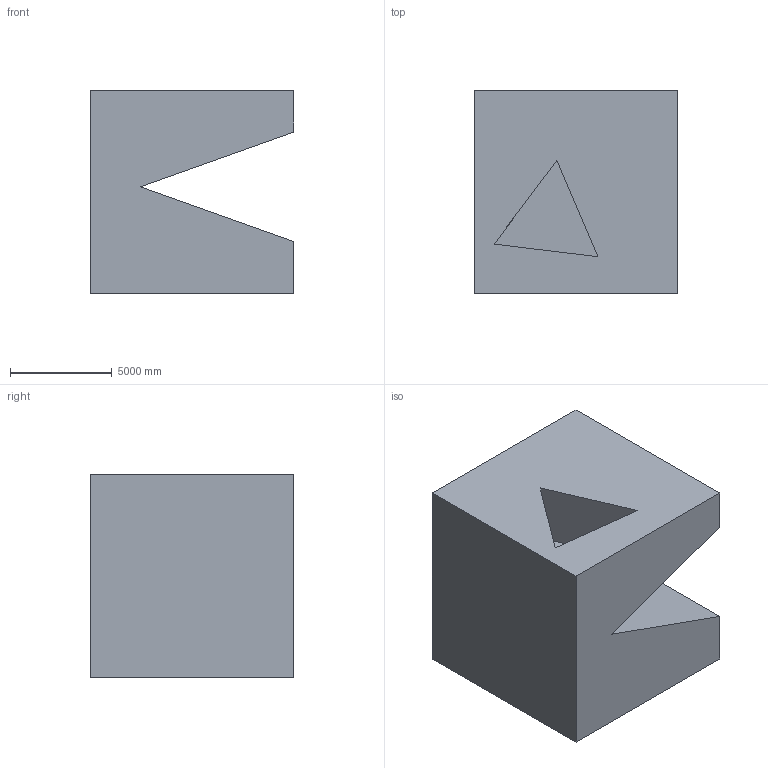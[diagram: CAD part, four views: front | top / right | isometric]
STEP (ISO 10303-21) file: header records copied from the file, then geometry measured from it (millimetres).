
FILE_DESCRIPTION (( 'STEP AP203' ), '1' );
FILE_NAME ('1043.STEP', '2022-08-18T12:32:15', ( 'user' ), ( '' ), 'SwSTEP 2.0', 'SolidWorks 2021', '' );
FILE_SCHEMA (( 'CONFIG_CONTROL_DESIGN' ));
Length unit declared in the file: centimetre
Products named in the file (1): 1043
Bounding box: 10000 x 10000 x 10000 mm (x, y, z)
Volume: 762928551209.3 mm3; surface area: 712323039.8 mm2
Topology: 1 solids, 1 shells, 13 faces, 30 edges, 20 vertices
Faces by surface type: plane 13
Entity records: 441 total; most frequent: CARTESIAN_POINT 64, ORIENTED_EDGE 60, DIRECTION 58, LINE 30, VECTOR 30, EDGE_CURVE 30, VERTEX_POINT 20, AXIS2_PLACEMENT_3D 14
